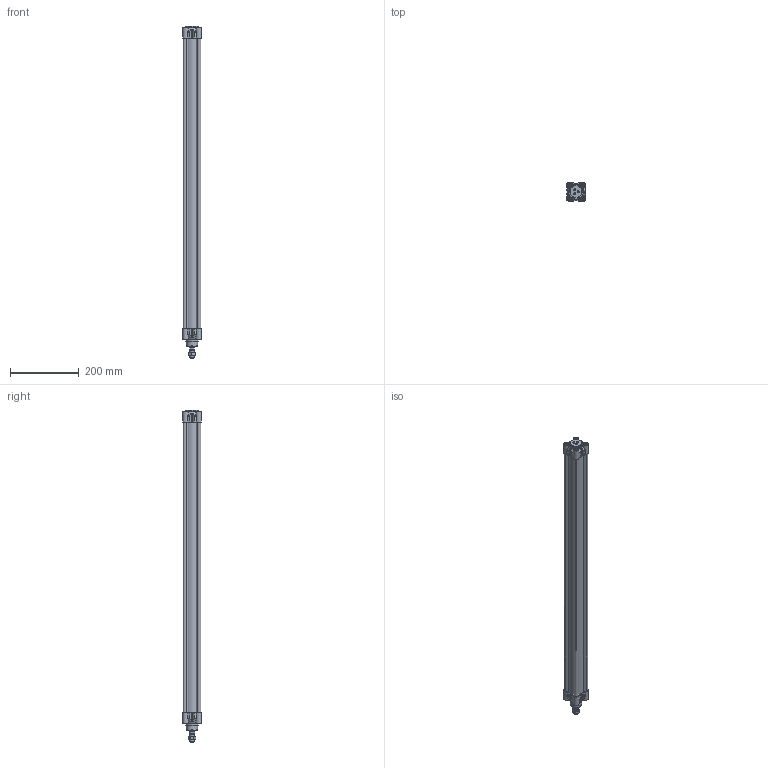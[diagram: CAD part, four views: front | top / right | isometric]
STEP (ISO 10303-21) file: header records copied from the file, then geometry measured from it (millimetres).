
FILE_DESCRIPTION(/* description */ ('Unknown'),/* implementation_level */ '2;1');
FILE_NAME(/* name */ 'HIFO 40_800',/* time_stamp */ '2024-08-14T09:40:57+02:00',/* author */ ('Unknown'),/* organization */ ('Unknown'),/* preprocessor_version */ 'ST-DEVELOPER v16.7',/* originating_system */ 'Solid Edge',/* authorisation */ 'Unknown');
FILE_SCHEMA (('AUTOMOTIVE_DESIGN {1 0 10303 214 3 1 1}'));
Length unit declared in the file: millimetre
Products named in the file (6): HIFO 40_800; Profilrohr 40_800; Mutter; Kolbenstange 40_800; Kit_1; Kit_2
Assembly tree (5 placements, depth 2):
  HIFO 40_800
    Profilrohr 40_800
    Mutter
    Kolbenstange 40_800
    Kit_1
    Kit_2
Bounding box: 54.5 x 54.5 x 963 mm (x, y, z)
Volume: 904317.1 mm3; surface area: 550936.8 mm2
Topology: 5 solids, 12 shells, 963 faces, 2463 edges, 1610 vertices
Faces by surface type: plane 392, cylinder 309, cone 95, torus 76, bspline 73, sphere 18
Full cylindrical faces by diameter (mm): 2.5 x1, 3 x3, 3.5 x3, 4.917 x16, 6 x11, 6.2 x8, 7 x1, 9.9 x2, 10 x13, 10.3 x8, 10.647 x1, 11.44 x1, 11.445 x2, 12 x1, 15.5 x1, 16 x2, 16.6 x1, 16.8 x1, 16.847 x1, 20 x1, 26 x2, 33 x1, 35 x2, 40 x2
Entity records: 37469 total; most frequent: CARTESIAN_POINT 9065, ORIENTED_EDGE 4790, DIRECTION 4576, EDGE_CURVE 2395, AXIS2_PLACEMENT_3D 1737, VERTEX_POINT 1593, FACE_BOUND 1128, EDGE_LOOP 1120
